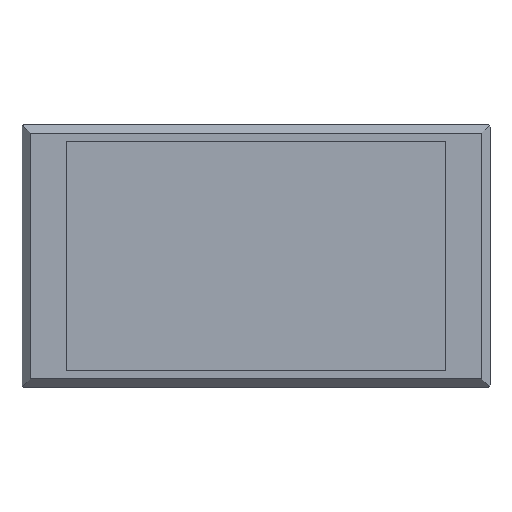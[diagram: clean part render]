
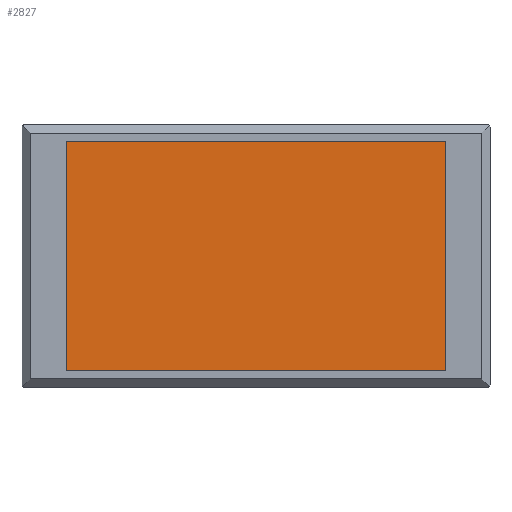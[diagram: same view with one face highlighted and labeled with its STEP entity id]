
A CAD part, front view. The second image highlights one B-rep face of the part: STEP entity #2827.
In plain terms, the highlighted planar face has unit normal (0, -1, 0).
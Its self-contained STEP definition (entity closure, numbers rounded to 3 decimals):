
#41 = CARTESIAN_POINT ( 'NONE',  ( -81., 1.3, -49. ) ) ;
#135 = DIRECTION ( 'NONE',  ( 0., -1., 0. ) ) ;
#139 = DIRECTION ( 'NONE',  ( 0., 0., 1. ) ) ;
#292 = CARTESIAN_POINT ( 'NONE',  ( -81., 1.3, -49. ) ) ;
#315 = FACE_OUTER_BOUND ( 'NONE', #1748, .T. ) ;
#339 = LINE ( 'NONE', #2568, #837 ) ;
#506 = CARTESIAN_POINT ( 'NONE',  ( 81., 1.3, 49. ) ) ;
#518 = LINE ( 'NONE', #292, #1675 ) ;
#548 = PLANE ( 'NONE',  #2062 ) ;
#554 = CARTESIAN_POINT ( 'NONE',  ( 81., 1.3, -49. ) ) ;
#583 = LINE ( 'NONE', #1703, #1799 ) ;
#591 = EDGE_CURVE ( 'NONE', #1510, #886, #518, .T. ) ;
#599 = ORIENTED_EDGE ( 'NONE', *, *, #803, .T. ) ;
#697 = ORIENTED_EDGE ( 'NONE', *, *, #591, .T. ) ;
#768 = CARTESIAN_POINT ( 'NONE',  ( -81., 1.3, 49. ) ) ;
#770 = DIRECTION ( 'NONE',  ( 0., 0., -1. ) ) ;
#803 = EDGE_CURVE ( 'NONE', #886, #1753, #583, .T. ) ;
#837 = VECTOR ( 'NONE', #1222, 1000. ) ;
#880 = EDGE_CURVE ( 'NONE', #1753, #1434, #898, .T. ) ;
#886 = VERTEX_POINT ( 'NONE', #554 ) ;
#898 = LINE ( 'NONE', #768, #1463 ) ;
#1222 = DIRECTION ( 'NONE',  ( 0., 0., -1. ) ) ;
#1255 = DIRECTION ( 'NONE',  ( -1., 0., 0. ) ) ;
#1374 = EDGE_CURVE ( 'NONE', #1434, #1510, #339, .T. ) ;
#1434 = VERTEX_POINT ( 'NONE', #2797 ) ;
#1463 = VECTOR ( 'NONE', #1255, 1000. ) ;
#1510 = VERTEX_POINT ( 'NONE', #41 ) ;
#1519 = ORIENTED_EDGE ( 'NONE', *, *, #880, .T. ) ;
#1675 = VECTOR ( 'NONE', #2096, 1000. ) ;
#1698 = CARTESIAN_POINT ( 'NONE',  ( 0., 1.3, 0. ) ) ;
#1703 = CARTESIAN_POINT ( 'NONE',  ( 81., 1.3, 49. ) ) ;
#1748 = EDGE_LOOP ( 'NONE', ( #1953, #697, #599, #1519 ) ) ;
#1753 = VERTEX_POINT ( 'NONE', #506 ) ;
#1799 = VECTOR ( 'NONE', #139, 1000. ) ;
#1953 = ORIENTED_EDGE ( 'NONE', *, *, #1374, .T. ) ;
#2062 = AXIS2_PLACEMENT_3D ( 'NONE', #1698, #135, #770 ) ;
#2096 = DIRECTION ( 'NONE',  ( 1., 0., 0. ) ) ;
#2568 = CARTESIAN_POINT ( 'NONE',  ( -81., 1.3, 49. ) ) ;
#2797 = CARTESIAN_POINT ( 'NONE',  ( -81., 1.3, 49. ) ) ;
#2827 = ADVANCED_FACE ( 'NONE', ( #315 ), #548, .T. ) ;
